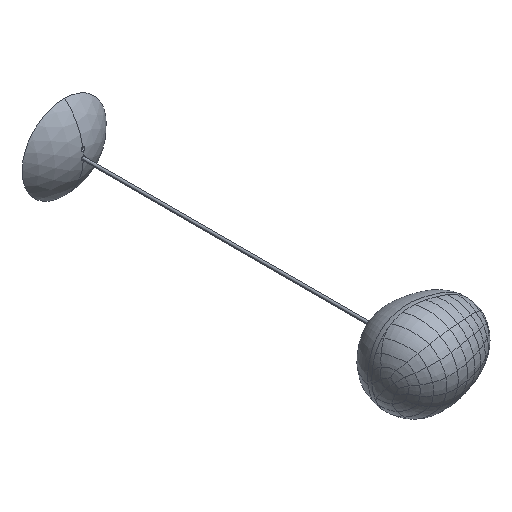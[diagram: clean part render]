
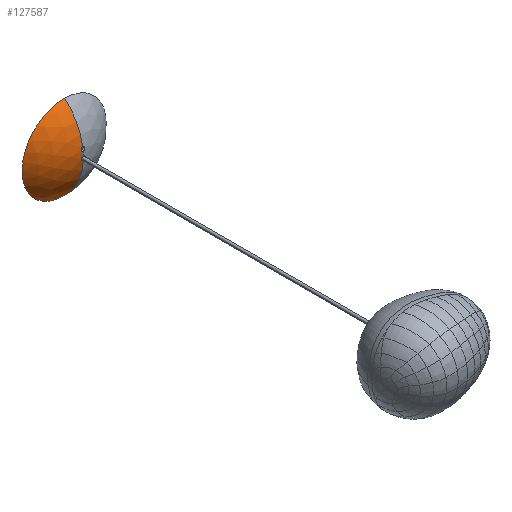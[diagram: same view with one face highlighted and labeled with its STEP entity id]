
A CAD part, isometric view. The second image highlights one B-rep face of the part: STEP entity #127587.
In plain terms, the highlighted spherical face has radius 106.889 mm.
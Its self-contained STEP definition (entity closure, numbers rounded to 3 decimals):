
#7018 = DIRECTION ( 'NONE',  ( -1., 0., 0.014 ) ) ;
#7050 = CARTESIAN_POINT ( 'NONE',  ( -106.81, 636.359, 35.123 ) ) ;
#8339 = VERTEX_POINT ( 'NONE', #74731 ) ;
#9040 = CARTESIAN_POINT ( 'NONE',  ( -106.599, 637.855, 49.859 ) ) ;
#16359 = ORIENTED_EDGE ( 'NONE', *, *, #175166, .F. ) ;
#16978 = CARTESIAN_POINT ( 'NONE',  ( -109.997, 637.199, 45.161 ) ) ;
#18917 = ORIENTED_EDGE ( 'NONE', *, *, #90425, .T. ) ;
#21867 = CARTESIAN_POINT ( 'NONE',  ( -107.508, 637.839, 49.759 ) ) ;
#23133 = CARTESIAN_POINT ( 'NONE',  ( -110.179, 637.375, 46.442 ) ) ;
#26649 = CARTESIAN_POINT ( 'NONE',  ( -106.858, 636.359, 31.723 ) ) ;
#27928 = DIRECTION ( 'NONE',  ( 0., 1., 0. ) ) ;
#29695 = ORIENTED_EDGE ( 'NONE', *, *, #255394, .T. ) ;
#29796 = DIRECTION ( 'NONE',  ( 1., 0., -0.014 ) ) ;
#30200 = DIRECTION ( 'NONE',  ( -1., 0., 0.014 ) ) ;
#34952 = CIRCLE ( 'NONE', #198236, 3.4 ) ;
#36390 = EDGE_CURVE ( 'NONE', #8339, #94404, #137386, .T. ) ;
#36606 = CARTESIAN_POINT ( 'NONE',  ( -109.625, 637.092, 44.379 ) ) ;
#37909 = CARTESIAN_POINT ( 'NONE',  ( -107.135, 636.877, 42.771 ) ) ;
#42296 = CARTESIAN_POINT ( 'NONE',  ( -106.832, 637.854, 49.856 ) ) ;
#42779 = CARTESIAN_POINT ( 'NONE',  ( -108.69, 637.761, 49.211 ) ) ;
#44054 = CARTESIAN_POINT ( 'NONE',  ( -109.368, 637.044, 44.025 ) ) ;
#45334 = CARTESIAN_POINT ( 'NONE',  ( -109.704, 637.604, 48.092 ) ) ;
#49011 = VERTEX_POINT ( 'NONE', #190920 ) ;
#57539 = CARTESIAN_POINT ( 'NONE',  ( -109.976, 637.521, 47.5 ) ) ;
#57893 = VERTEX_POINT ( 'NONE', #7050 ) ;
#59361 = CARTESIAN_POINT ( 'NONE',  ( -107.062, 637.851, 49.836 ) ) ;
#63404 = SPHERICAL_SURFACE ( 'NONE', #96264, 106.889 ) ;
#67236 = FACE_OUTER_BOUND ( 'NONE', #166490, .T. ) ;
#69277 = CARTESIAN_POINT ( 'NONE',  ( -110.258, 636.359, 31.771 ) ) ;
#74731 = CARTESIAN_POINT ( 'NONE',  ( -105.704, 673.305, 112.59 ) ) ;
#76980 = VERTEX_POINT ( 'NONE', #69277 ) ;
#81311 = DIRECTION ( 'NONE',  ( 0., -1., 0. ) ) ;
#81916 = DIRECTION ( 'NONE',  ( 1., 0., -0.014 ) ) ;
#83374 = CARTESIAN_POINT ( 'NONE',  ( -106.701, 636.875, 42.745 ) ) ;
#84581 = CARTESIAN_POINT ( 'NONE',  ( -108.013, 673.305, -49.144 ) ) ;
#90425 = EDGE_CURVE ( 'NONE', #148772, #192995, #191701, .T. ) ;
#94404 = VERTEX_POINT ( 'NONE', #84581 ) ;
#96264 = AXIS2_PLACEMENT_3D ( 'NONE', #147182, #7018, #182645 ) ;
#96858 = CARTESIAN_POINT ( 'NONE',  ( -109.921, 637.171, 44.955 ) ) ;
#97032 = CARTESIAN_POINT ( 'NONE',  ( -106.858, 673.305, 31.723 ) ) ;
#103013 = CARTESIAN_POINT ( 'NONE',  ( -109.896, 637.55, 47.705 ) ) ;
#104288 = CARTESIAN_POINT ( 'NONE',  ( -110.109, 637.256, 45.58 ) ) ;
#117809 = CARTESIAN_POINT ( 'NONE',  ( -109.181, 637.701, 48.787 ) ) ;
#119623 = CARTESIAN_POINT ( 'NONE',  ( -106.716, 637.855, 49.86 ) ) ;
#122683 = CARTESIAN_POINT ( 'NONE',  ( -108.319, 637.793, 49.443 ) ) ;
#123959 = CARTESIAN_POINT ( 'NONE',  ( -109.329, 637.678, 48.623 ) ) ;
#127587 = ADVANCED_FACE ( 'NONE', ( #67236 ), #63404, .T. ) ;
#128746 = DIRECTION ( 'NONE',  ( 1., 0., -0.014 ) ) ;
#129340 = CARTESIAN_POINT ( 'NONE',  ( -106.858, 743.193, 31.723 ) ) ;
#136969 = DIRECTION ( 'NONE',  ( 0., 1., 0. ) ) ;
#137386 = CIRCLE ( 'NONE', #174971, 80.875 ) ;
#137480 = CARTESIAN_POINT ( 'NONE',  ( -107.775, 636.897, 42.923 ) ) ;
#139294 = CARTESIAN_POINT ( 'NONE',  ( -107.292, 637.845, 49.799 ) ) ;
#139604 = CARTESIAN_POINT ( 'NONE',  ( -106.858, 636.359, 31.723 ) ) ;
#144924 = CARTESIAN_POINT ( 'NONE',  ( -107.563, 636.888, 42.859 ) ) ;
#147182 = CARTESIAN_POINT ( 'NONE',  ( -106.858, 743.193, 31.723 ) ) ;
#148743 = DIRECTION ( 'NONE',  ( 1., 0., -0.014 ) ) ;
#148772 = VERTEX_POINT ( 'NONE', #166991 ) ;
#153748 = AXIS2_PLACEMENT_3D ( 'NONE', #129340, #29796, #189632 ) ;
#157138 = CARTESIAN_POINT ( 'NONE',  ( -110.181, 637.345, 46.223 ) ) ;
#161480 = VERTEX_POINT ( 'NONE', #215526 ) ;
#162037 = CARTESIAN_POINT ( 'NONE',  ( -110.136, 637.434, 46.873 ) ) ;
#164591 = CARTESIAN_POINT ( 'NONE',  ( -108.122, 637.808, 49.541 ) ) ;
#166490 = EDGE_LOOP ( 'NONE', ( #223997, #255393, #29695, #236761, #186504, #194628, #18917, #16359 ) ) ;
#166991 = CARTESIAN_POINT ( 'NONE',  ( -107.292, 637.845, 49.799 ) ) ;
#168410 = CARTESIAN_POINT ( 'NONE',  ( -106.858, 743.193, 31.723 ) ) ;
#168703 = AXIS2_PLACEMENT_3D ( 'NONE', #168410, #148743, #209021 ) ;
#174971 = AXIS2_PLACEMENT_3D ( 'NONE', #97032, #81311, #182170 ) ;
#175166 = EDGE_CURVE ( 'NONE', #8339, #192995, #239827, .T. ) ;
#176773 = CARTESIAN_POINT ( 'NONE',  ( -109.735, 637.118, 44.565 ) ) ;
#182170 = DIRECTION ( 'NONE',  ( -1., 0., 0.014 ) ) ;
#182334 = B_SPLINE_CURVE_WITH_KNOTS ( 'NONE', 3,
 ( #83374, #243226, #37909, #144924, #137480, #216111, #223573, #224851, #217427, #241949, #44054, #36606, #176773, #96858, #16978, #104288, #256690, #157138, #23133, #162037, #222299, #57539, #103013, #45334, #237068, #123959, #117809, #184233, #42779, #122683, #164591, #197763, #21867, #203903 ),
 .UNSPECIFIED., .F., .F.,
 ( 4, 2, 2, 2, 2, 2, 2, 2, 2, 2, 2, 2, 2, 2, 2, 2, 4 ),
 ( 0.011, 0.012, 0.013, 0.013, 0.014, 0.015, 0.015, 0.016, 0.017, 0.017, 0.018, 0.019, 0.019, 0.02, 0.02, 0.021, 0.022 ),
 .UNSPECIFIED. ) ;
#182483 = CARTESIAN_POINT ( 'NONE',  ( -107.177, 637.848, 49.821 ) ) ;
#182645 = DIRECTION ( 'NONE',  ( 0.014, 0., 1. ) ) ;
#183273 = EDGE_CURVE ( 'NONE', #76980, #57893, #34952, .T. ) ;
#184233 = CARTESIAN_POINT ( 'NONE',  ( -108.862, 637.742, 49.079 ) ) ;
#186504 = ORIENTED_EDGE ( 'NONE', *, *, #227841, .F. ) ;
#189632 = DIRECTION ( 'NONE',  ( -0.014, 0., -1. ) ) ;
#190920 = CARTESIAN_POINT ( 'NONE',  ( -106.907, 636.359, 28.323 ) ) ;
#191701 = B_SPLINE_CURVE_WITH_KNOTS ( 'NONE', 3,
 ( #139294, #182483, #59361, #42296, #119623, #199571 ),
 .UNSPECIFIED., .F., .F.,
 ( 4, 2, 4 ),
 ( 0.022, 0.022, 0.023 ),
 .UNSPECIFIED. ) ;
#192622 = CARTESIAN_POINT ( 'NONE',  ( -106.858, 743.193, 31.723 ) ) ;
#192995 = VERTEX_POINT ( 'NONE', #9040 ) ;
#194628 = ORIENTED_EDGE ( 'NONE', *, *, #209636, .T. ) ;
#197763 = CARTESIAN_POINT ( 'NONE',  ( -107.718, 637.83, 49.699 ) ) ;
#198236 = AXIS2_PLACEMENT_3D ( 'NONE', #139604, #136969, #81916 ) ;
#199252 = CIRCLE ( 'NONE', #220210, 3.4 ) ;
#199571 = CARTESIAN_POINT ( 'NONE',  ( -106.599, 637.855, 49.859 ) ) ;
#203903 = CARTESIAN_POINT ( 'NONE',  ( -107.292, 637.845, 49.799 ) ) ;
#209021 = DIRECTION ( 'NONE',  ( -0.014, 0., -1. ) ) ;
#209636 = EDGE_CURVE ( 'NONE', #161480, #148772, #182334, .T. ) ;
#215526 = CARTESIAN_POINT ( 'NONE',  ( -106.701, 636.875, 42.745 ) ) ;
#216111 = CARTESIAN_POINT ( 'NONE',  ( -108.177, 636.918, 43.088 ) ) ;
#217427 = CARTESIAN_POINT ( 'NONE',  ( -108.91, 636.982, 43.562 ) ) ;
#220210 = AXIS2_PLACEMENT_3D ( 'NONE', #26649, #27928, #128746 ) ;
#221059 = EDGE_CURVE ( 'NONE', #94404, #49011, #247718, .T. ) ;
#222299 = CARTESIAN_POINT ( 'NONE',  ( -110.096, 637.463, 47.084 ) ) ;
#223573 = CARTESIAN_POINT ( 'NONE',  ( -108.37, 636.932, 43.188 ) ) ;
#223997 = ORIENTED_EDGE ( 'NONE', *, *, #36390, .T. ) ;
#224851 = CARTESIAN_POINT ( 'NONE',  ( -108.739, 636.964, 43.427 ) ) ;
#227841 = EDGE_CURVE ( 'NONE', #161480, #57893, #229694, .T. ) ;
#229694 = CIRCLE ( 'NONE', #153748, 106.889 ) ;
#230925 = AXIS2_PLACEMENT_3D ( 'NONE', #192622, #30200, #254132 ) ;
#236761 = ORIENTED_EDGE ( 'NONE', *, *, #183273, .T. ) ;
#237068 = CARTESIAN_POINT ( 'NONE',  ( -109.59, 637.629, 48.276 ) ) ;
#239827 = CIRCLE ( 'NONE', #168703, 106.889 ) ;
#241949 = CARTESIAN_POINT ( 'NONE',  ( -109.224, 637.022, 43.861 ) ) ;
#243226 = CARTESIAN_POINT ( 'NONE',  ( -106.919, 636.875, 42.748 ) ) ;
#247718 = CIRCLE ( 'NONE', #230925, 106.889 ) ;
#254132 = DIRECTION ( 'NONE',  ( 0.014, 0., 1. ) ) ;
#255393 = ORIENTED_EDGE ( 'NONE', *, *, #221059, .T. ) ;
#255394 = EDGE_CURVE ( 'NONE', #49011, #76980, #199252, .T. ) ;
#256690 = CARTESIAN_POINT ( 'NONE',  ( -110.146, 637.285, 45.792 ) ) ;
